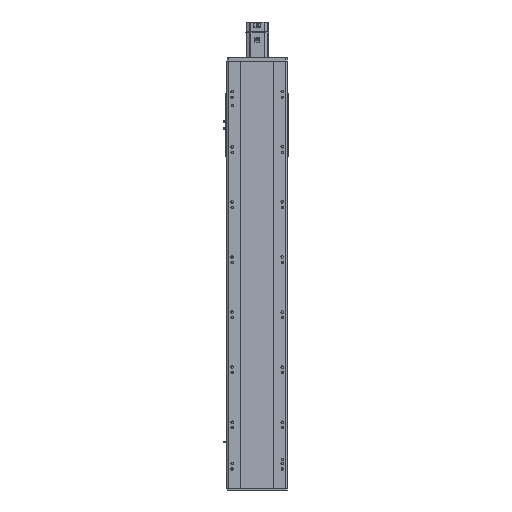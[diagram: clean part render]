
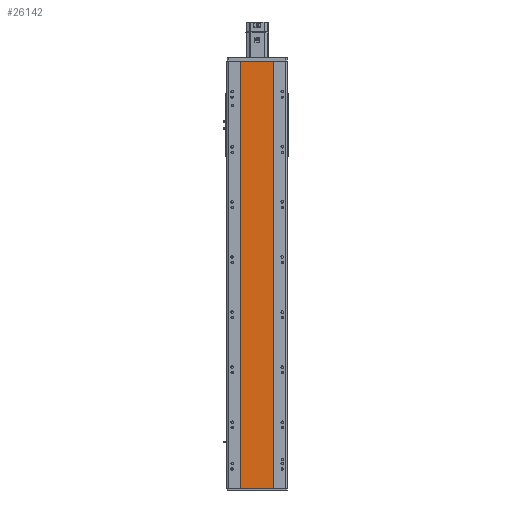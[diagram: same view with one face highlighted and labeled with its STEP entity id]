
A CAD part, front view. The second image highlights one B-rep face of the part: STEP entity #26142.
In plain terms, the highlighted planar face has unit normal (0, -1, 0).
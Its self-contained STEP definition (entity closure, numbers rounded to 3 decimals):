
#1363 = EDGE_CURVE ( 'NONE', #15661, #9554, #23246, .T. ) ;
#2094 = ORIENTED_EDGE ( 'NONE', *, *, #9861, .T. ) ;
#2497 = EDGE_LOOP ( 'NONE', ( #3316, #30632, #9914, #2094 ) ) ;
#2710 = AXIS2_PLACEMENT_3D ( 'NONE', #6784, #3433, #34084 ) ;
#3103 = DIRECTION ( 'NONE',  ( 0., 0., -1. ) ) ;
#3316 = ORIENTED_EDGE ( 'NONE', *, *, #16271, .T. ) ;
#3433 = DIRECTION ( 'NONE',  ( 0., 1., 0. ) ) ;
#3568 = VECTOR ( 'NONE', #3103, 1000. ) ;
#5958 = LINE ( 'NONE', #18430, #3568 ) ;
#6784 = CARTESIAN_POINT ( 'NONE',  ( -59., 1., 775.5 ) ) ;
#6952 = EDGE_CURVE ( 'NONE', #9554, #7653, #5958, .T. ) ;
#7653 = VERTEX_POINT ( 'NONE', #20831 ) ;
#9554 = VERTEX_POINT ( 'NONE', #30939 ) ;
#9861 = EDGE_CURVE ( 'NONE', #15661, #21200, #23103, .T. ) ;
#9914 = ORIENTED_EDGE ( 'NONE', *, *, #1363, .F. ) ;
#10278 = VECTOR ( 'NONE', #27109, 1000. ) ;
#11658 = DIRECTION ( 'NONE',  ( 0., 0., -1. ) ) ;
#13779 = VECTOR ( 'NONE', #15044, 1000. ) ;
#14508 = CARTESIAN_POINT ( 'NONE',  ( -59., 1., -775.5 ) ) ;
#14642 = CARTESIAN_POINT ( 'NONE',  ( -59., 1., -775.5 ) ) ;
#15044 = DIRECTION ( 'NONE',  ( 1., 0., 0. ) ) ;
#15661 = VERTEX_POINT ( 'NONE', #26701 ) ;
#16271 = EDGE_CURVE ( 'NONE', #21200, #7653, #21921, .T. ) ;
#18430 = CARTESIAN_POINT ( 'NONE',  ( 59., 1., 775.5 ) ) ;
#20229 = VECTOR ( 'NONE', #11658, 1000. ) ;
#20831 = CARTESIAN_POINT ( 'NONE',  ( 59., 1., -775.5 ) ) ;
#21200 = VERTEX_POINT ( 'NONE', #14642 ) ;
#21921 = LINE ( 'NONE', #14508, #13779 ) ;
#23103 = LINE ( 'NONE', #23832, #20229 ) ;
#23246 = LINE ( 'NONE', #24067, #10278 ) ;
#23832 = CARTESIAN_POINT ( 'NONE',  ( -59., 1., 775.5 ) ) ;
#24067 = CARTESIAN_POINT ( 'NONE',  ( -59., 1., 775.5 ) ) ;
#26142 = ADVANCED_FACE ( 'NONE', ( #37526 ), #31001, .F. ) ;
#26701 = CARTESIAN_POINT ( 'NONE',  ( -59., 1., 775.5 ) ) ;
#27109 = DIRECTION ( 'NONE',  ( 1., 0., 0. ) ) ;
#30632 = ORIENTED_EDGE ( 'NONE', *, *, #6952, .F. ) ;
#30939 = CARTESIAN_POINT ( 'NONE',  ( 59., 1., 775.5 ) ) ;
#31001 = PLANE ( 'NONE',  #2710 ) ;
#34084 = DIRECTION ( 'NONE',  ( -1., 0., 0. ) ) ;
#37526 = FACE_OUTER_BOUND ( 'NONE', #2497, .T. ) ;
